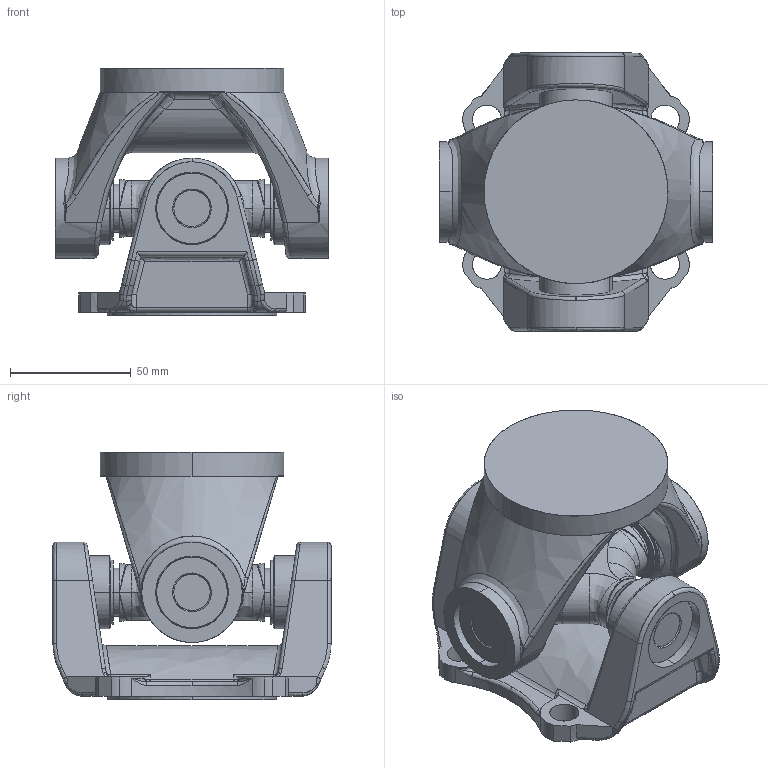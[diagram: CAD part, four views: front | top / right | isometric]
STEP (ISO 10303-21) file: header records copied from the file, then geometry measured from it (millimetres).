
FILE_DESCRIPTION( ('This file contains a STEP AP42 implementation' ,'as created by ZW3D STEP Interface translator.') ,'2;1' );
FILE_NAME( 'Universal Coupling Assembly .stp' ,'12 828. 35438', (''), ('ZWCAD Software Co.'), 'Version 1.0', 'ZW3D to STEP translator', '' );
FILE_SCHEMA( ('CONFIG_CONTROL_DESIGN') );
Length unit declared in the file: millimetre
Products named in the file (1): 0
Bounding box: 113 x 115 x 102.5 mm (x, y, z)
Surface area: 95736.1 mm2 (no closed solid volume)
Topology: 0 solids, 0 shells, 492 faces, 2336 edges, 2292 vertices
Faces by surface type: bspline 492
Entity records: 76384 total; most frequent: CARTESIAN_POINT 59837, B_SPLINE_CURVE_WITH_KNOTS 3737, PARAMETRIC_REPRESENTATION_CONTEXT 2338, DEFINITIONAL_REPRESENTATION 2338, PCURVE 2338, SURFACE_CURVE 2338, COMPOSITE_CURVE_SEGMENT 2338, OUTER_BOUNDARY_CURVE 492
